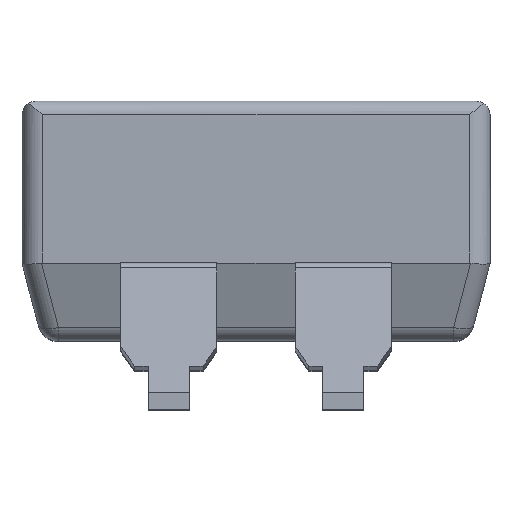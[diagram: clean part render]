
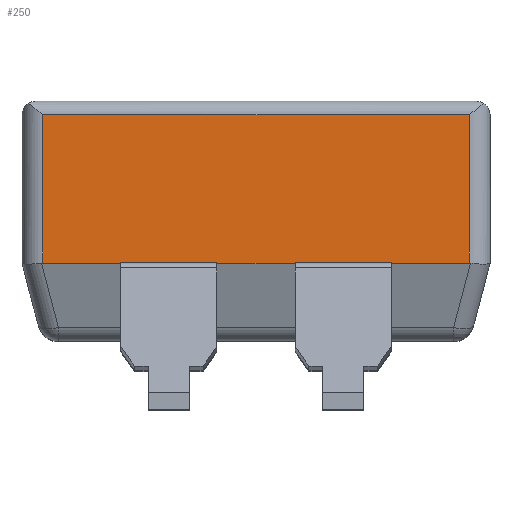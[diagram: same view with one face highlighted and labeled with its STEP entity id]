
A CAD part, top view. The second image highlights one B-rep face of the part: STEP entity #250.
In plain terms, the highlighted planar face has unit normal (0, 0, 1).
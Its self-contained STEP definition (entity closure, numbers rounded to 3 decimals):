
#107 = ORIENTED_EDGE ( 'NONE', *, *, #108, .T. ) ;
#108 = EDGE_CURVE ( 'NONE', #246, #109, #3247, .T. ) ;
#109 = VERTEX_POINT ( 'NONE', #3243 ) ;
#232 = EDGE_LOOP ( 'NONE', ( #233, #241, #107, #1257, #1191, #1192, #1194, #1195 ) ) ;
#233 = ORIENTED_EDGE ( 'NONE', *, *, #1388, .F. ) ;
#241 = ORIENTED_EDGE ( 'NONE', *, *, #251, .T. ) ;
#246 = VERTEX_POINT ( 'NONE', #2299 ) ;
#250 = ADVANCED_FACE ( 'NONE', ( #2293 ), #2292, .F. ) ;
#251 = EDGE_CURVE ( 'NONE', #1386, #246, #2287, .T. ) ;
#1190 = EDGE_CURVE ( 'NONE', #109, #1369, #4766, .T. ) ;
#1191 = ORIENTED_EDGE ( 'NONE', *, *, #1368, .F. ) ;
#1192 = ORIENTED_EDGE ( 'NONE', *, *, #1193, .F. ) ;
#1193 = EDGE_CURVE ( 'NONE', #1348, #1345, #4762, .T. ) ;
#1194 = ORIENTED_EDGE ( 'NONE', *, *, #1400, .F. ) ;
#1195 = ORIENTED_EDGE ( 'NONE', *, *, #1196, .F. ) ;
#1196 = EDGE_CURVE ( 'NONE', #1389, #1398, #4758, .T. ) ;
#1257 = ORIENTED_EDGE ( 'NONE', *, *, #1190, .T. ) ;
#1345 = VERTEX_POINT ( 'NONE', #5255 ) ;
#1348 = VERTEX_POINT ( 'NONE', #5250 ) ;
#1368 = EDGE_CURVE ( 'NONE', #1345, #1369, #5186, .T. ) ;
#1369 = VERTEX_POINT ( 'NONE', #5182 ) ;
#1386 = VERTEX_POINT ( 'NONE', #5160 ) ;
#1388 = EDGE_CURVE ( 'NONE', #1386, #1389, #5159, .T. ) ;
#1389 = VERTEX_POINT ( 'NONE', #5151 ) ;
#1398 = VERTEX_POINT ( 'NONE', #5136 ) ;
#1400 = EDGE_CURVE ( 'NONE', #1398, #1348, #5135, .T. ) ;
#2284 = DIRECTION ( 'NONE',  ( 0., 1., 0. ) ) ;
#2285 = VECTOR ( 'NONE', #2284, 1000. ) ;
#2286 = CARTESIAN_POINT ( 'NONE',  ( 3.11, 3.8, 3.4 ) ) ;
#2287 = LINE ( 'NONE', #2286, #2285 ) ;
#2288 = DIRECTION ( 'NONE',  ( 0., 1., 0. ) ) ;
#2289 = DIRECTION ( 'NONE',  ( 0., 0., -1. ) ) ;
#2290 = CARTESIAN_POINT ( 'NONE',  ( 0., 4., 3.4 ) ) ;
#2291 = AXIS2_PLACEMENT_3D ( 'NONE', #2290, #2289, #2288 ) ;
#2292 = PLANE ( 'NONE',  #2291 ) ;
#2293 = FACE_OUTER_BOUND ( 'NONE', #232, .T. ) ;
#2299 = CARTESIAN_POINT ( 'NONE',  ( 3.11, 3.8, 3.4 ) ) ;
#3243 = CARTESIAN_POINT ( 'NONE',  ( -3.11, 3.8, 3.4 ) ) ;
#3244 = DIRECTION ( 'NONE',  ( -1., 0., 0. ) ) ;
#3245 = VECTOR ( 'NONE', #3244, 1000. ) ;
#3246 = CARTESIAN_POINT ( 'NONE',  ( 0., 3.8, 3.4 ) ) ;
#3247 = LINE ( 'NONE', #3246, #3245 ) ;
#4754 = DIRECTION ( 'NONE',  ( -1., 0., 0. ) ) ;
#4755 = VECTOR ( 'NONE', #4754, 1000. ) ;
#4756 = CARTESIAN_POINT ( 'NONE',  ( 1.97, 1.64, 3.4 ) ) ;
#4758 = LINE ( 'NONE', #4756, #4755 ) ;
#4759 = DIRECTION ( 'NONE',  ( -1., 0., 0. ) ) ;
#4760 = VECTOR ( 'NONE', #4759, 1000. ) ;
#4761 = CARTESIAN_POINT ( 'NONE',  ( -0.57, 1.64, 3.4 ) ) ;
#4762 = LINE ( 'NONE', #4761, #4760 ) ;
#4763 = DIRECTION ( 'NONE',  ( 0., -1., 0. ) ) ;
#4764 = VECTOR ( 'NONE', #4763, 1000. ) ;
#4765 = CARTESIAN_POINT ( 'NONE',  ( -3.11, 1.64, 3.4 ) ) ;
#4766 = LINE ( 'NONE', #4765, #4764 ) ;
#5132 = DIRECTION ( 'NONE',  ( -1., 0., 0. ) ) ;
#5133 = VECTOR ( 'NONE', #5132, 1000. ) ;
#5134 = CARTESIAN_POINT ( 'NONE',  ( 0., 1.64, 3.4 ) ) ;
#5135 = LINE ( 'NONE', #5134, #5133 ) ;
#5136 = CARTESIAN_POINT ( 'NONE',  ( 0.57, 1.64, 3.4 ) ) ;
#5151 = CARTESIAN_POINT ( 'NONE',  ( 1.97, 1.64, 3.4 ) ) ;
#5152 = DIRECTION ( 'NONE',  ( -1., 0., 0. ) ) ;
#5153 = VECTOR ( 'NONE', #5152, 1000. ) ;
#5154 = CARTESIAN_POINT ( 'NONE',  ( 0., 1.64, 3.4 ) ) ;
#5159 = LINE ( 'NONE', #5154, #5153 ) ;
#5160 = CARTESIAN_POINT ( 'NONE',  ( 3.11, 1.64, 3.4 ) ) ;
#5182 = CARTESIAN_POINT ( 'NONE',  ( -3.11, 1.64, 3.4 ) ) ;
#5183 = DIRECTION ( 'NONE',  ( -1., 0., 0. ) ) ;
#5184 = VECTOR ( 'NONE', #5183, 1000. ) ;
#5185 = CARTESIAN_POINT ( 'NONE',  ( 0., 1.64, 3.4 ) ) ;
#5186 = LINE ( 'NONE', #5185, #5184 ) ;
#5250 = CARTESIAN_POINT ( 'NONE',  ( -0.57, 1.64, 3.4 ) ) ;
#5255 = CARTESIAN_POINT ( 'NONE',  ( -1.97, 1.64, 3.4 ) ) ;
